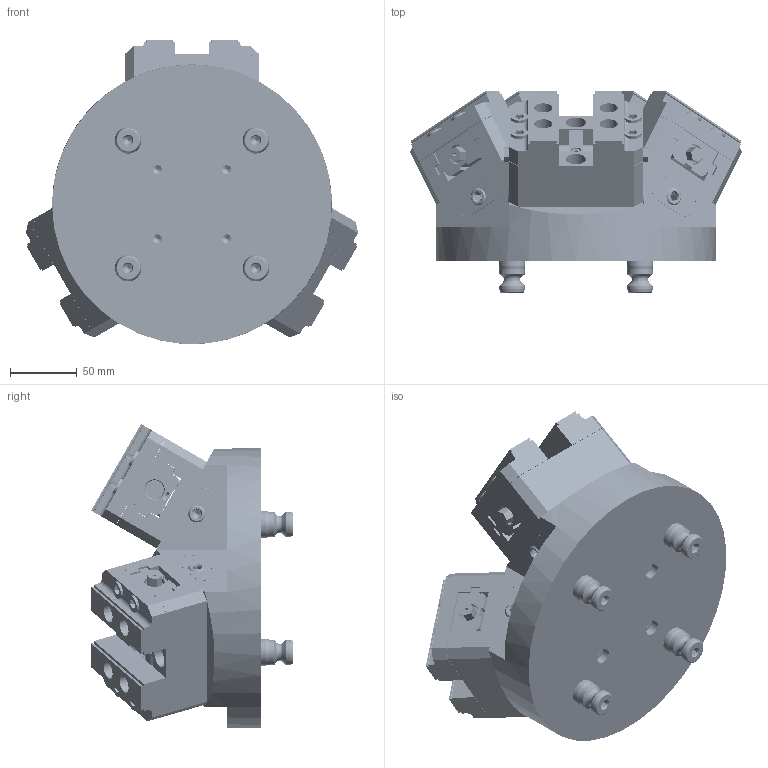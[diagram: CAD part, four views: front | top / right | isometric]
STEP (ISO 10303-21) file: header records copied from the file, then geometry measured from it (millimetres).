
FILE_DESCRIPTION (( 'STEP AP214' ), '1' );
FILE_NAME ('RL52A-P330_WEBSITE.STEP', '2025-08-11T12:14:37', ( '' ), ( '' ), 'SwSTEP 2.0', 'SolidWorks 2025', '' );
FILE_SCHEMA (( 'AUTOMOTIVE_DESIGN' ));
Length unit declared in the file: millimetre
Products named in the file (27): D_WHV75100-4_WEBSITE_V75100-4; 9452K77-Truck-O-Ring_WEBSITE; RL52A-P330_WEBSITE; 9452K168-Base-O-Ring_WEBSITE; D_WHV75100X-1_WEBSITE_V75100X-1; D_HW22X16.DB_WEBSITE; D_RL52-2R_WEBSITE; D_WHV75100X-2R_WEBSITE_V75100X-2R; D_RL52-ASSY_WEBSITE; D_PS20F_WEBSITE_HARD TURN; D_WHSB3V_WEBSITE_SB3V; D_RL52-2L_WEBSITE; D_WHM5x10.DP_WEBSITE_HW.M5X10.DP; D_M10-1.5 X 25mm.Set Screw_WEBSITE; D_WHV75100X-5_WEBSITE_V75100X-5; D_SB43_WEBSITE_92981A144; D_WHV75100-6_WEBSITE_V75100-6; D_WHHW.76232_WEBSITE_HK.76232; D_PS20F_WEBSITE; D_WHV75100X_WEBSITE; D_WHV75100X-3_WEBSITE_V75100X-3; D_WHV75100X-2L_WEBSITE_V75100X-2L; D_RL52-3_WEBSITE; D_WHHW.76048_WEBSITE_HK.76048; D_RL52-1P330A_WEBSITE; D_WHTIM-34_WEBSITE_TIM-34; 9750K720_PLASTIC ROUND PLUG_WEBSITE_9750K72
Assembly tree (65 placements, depth 3):
  RL52A-P330_WEBSITE
    D_RL52-1P330A_WEBSITE
    D_RL52-ASSY_WEBSITE  x3
      D_RL52-2L_WEBSITE
      D_RL52-2R_WEBSITE
      D_RL52-3_WEBSITE
      D_HW22X16.DB_WEBSITE
      D_SB43_WEBSITE_92981A144
    9452K168-Base-O-Ring_WEBSITE  x12
    9452K77-Truck-O-Ring_WEBSITE  x6
    D_PS20F_WEBSITE  x4
      D_PS20F_WEBSITE_HARD TURN
      D_M10-1.5 X 25mm.Set Screw_WEBSITE
    D_WHV75100X_WEBSITE  x3
      D_WHV75100X-1_WEBSITE_V75100X-1
      D_WHV75100X-2L_WEBSITE_V75100X-2L
      D_WHV75100X-2R_WEBSITE_V75100X-2R
      D_WHV75100X-3_WEBSITE_V75100X-3
      D_WHV75100-4_WEBSITE_V75100-4
      D_WHV75100X-5_WEBSITE_V75100X-5
      D_WHV75100-6_WEBSITE_V75100-6
      D_WHSB3V_WEBSITE_SB3V
      D_WHHW.76048_WEBSITE_HK.76048
      D_WHHW.76232_WEBSITE_HK.76232
      D_WHM5x10.DP_WEBSITE_HW.M5X10.DP
      D_WHTIM-34_WEBSITE_TIM-34
  9750K720_PLASTIC ROUND PLUG_WEBSITE_9750K72
Bounding box: 249.2 x 151.52 x 228.19 mm (x, y, z)
Volume: 2691450 mm3; surface area: 526337.8 mm2
Topology: 135 solids, 135 shells, 3152 faces, 7135 edges, 4450 vertices
Faces by surface type: plane 1742, cylinder 824, cone 524, torus 56, bspline 6
Full cylindrical faces by diameter (mm): 0.254 x6, 2.5 x9, 2.796 x6, 3 x6, 3.3 x6, 4 x15, 4.089 x6, 4.2 x9, 4.5 x3, 4.572 x6, 4.915 x12, 5 x24, 5.013 x6, 5.017 x6, 5.684 x8, 5.969 x3, 6 x6, 6.147 x10, 6.8 x40, 7 x3, 7.01 x6, 7.4 x3, 8 x24, 8.014 x9, 8.5 x32, 8.89 x3, 9 x21, 9.144 x12, 9.5 x6, 9.525 x12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
Entity records: 28825 total; most frequent: CARTESIAN_POINT 6676, DIRECTION 4330, ORIENTED_EDGE 3438, AXIS2_PLACEMENT_3D 1728, EDGE_CURVE 1719, EDGE_LOOP 1449, VERTEX_POINT 1260, FACE_OUTER_BOUND 1173
